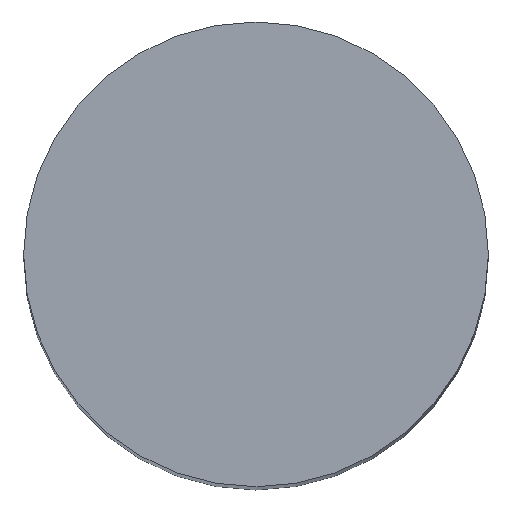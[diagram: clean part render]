
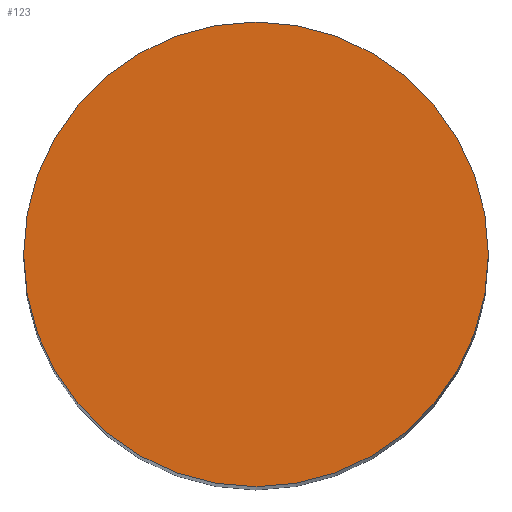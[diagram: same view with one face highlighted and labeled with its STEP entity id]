
A CAD part, top view. The second image highlights one B-rep face of the part: STEP entity #123.
In plain terms, the highlighted planar face has unit normal (0, 0, 1).
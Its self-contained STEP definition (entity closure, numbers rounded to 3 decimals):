
#39 = EDGE_CURVE('',#40,#40,#42,.T.);
#40 = VERTEX_POINT('',#41);
#41 = CARTESIAN_POINT('',(1.5,0.,6.));
#42 = SURFACE_CURVE('',#43,(#48,#60),.PCURVE_S1.);
#43 = CIRCLE('',#44,1.5);
#44 = AXIS2_PLACEMENT_3D('',#45,#46,#47);
#45 = CARTESIAN_POINT('',(0.,0.,6.));
#46 = DIRECTION('',(0.,0.,1.));
#47 = DIRECTION('',(1.,0.,-0.));
#48 = PCURVE('',#49,#54);
#49 = CYLINDRICAL_SURFACE('',#50,1.5);
#50 = AXIS2_PLACEMENT_3D('',#51,#52,#53);
#51 = CARTESIAN_POINT('',(0.,0.,-6.));
#52 = DIRECTION('',(0.,0.,1.));
#53 = DIRECTION('',(1.,0.,-0.));
#54 = DEFINITIONAL_REPRESENTATION('',(#55),#59);
#55 = LINE('',#56,#57);
#56 = CARTESIAN_POINT('',(0.,12.));
#57 = VECTOR('',#58,1.);
#58 = DIRECTION('',(1.,0.));
#59 = ( GEOMETRIC_REPRESENTATION_CONTEXT(2) 
PARAMETRIC_REPRESENTATION_CONTEXT() REPRESENTATION_CONTEXT('2D SPACE',''
  ) );
#60 = PCURVE('',#61,#66);
#61 = PLANE('',#62);
#62 = AXIS2_PLACEMENT_3D('',#63,#64,#65);
#63 = CARTESIAN_POINT('',(0.,0.,6.));
#64 = DIRECTION('',(0.,0.,1.));
#65 = DIRECTION('',(1.,0.,-0.));
#66 = DEFINITIONAL_REPRESENTATION('',(#67),#71);
#67 = CIRCLE('',#68,1.5);
#68 = AXIS2_PLACEMENT_2D('',#69,#70);
#69 = CARTESIAN_POINT('',(0.,0.));
#70 = DIRECTION('',(1.,0.));
#71 = ( GEOMETRIC_REPRESENTATION_CONTEXT(2) 
PARAMETRIC_REPRESENTATION_CONTEXT() REPRESENTATION_CONTEXT('2D SPACE',''
  ) );
#123 = ADVANCED_FACE('',(#124),#61,.T.);
#124 = FACE_BOUND('',#125,.T.);
#125 = EDGE_LOOP('',(#126));
#126 = ORIENTED_EDGE('',*,*,#39,.T.);
